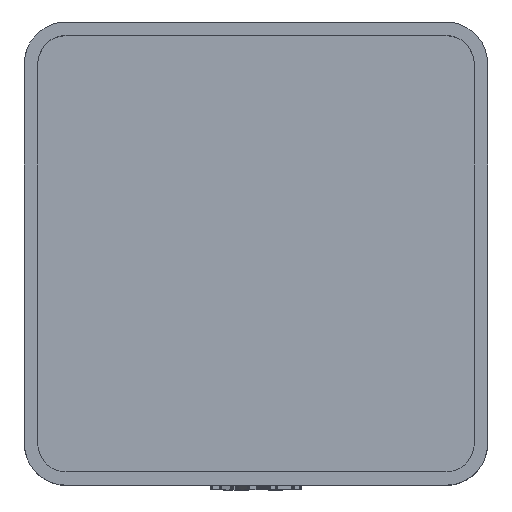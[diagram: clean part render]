
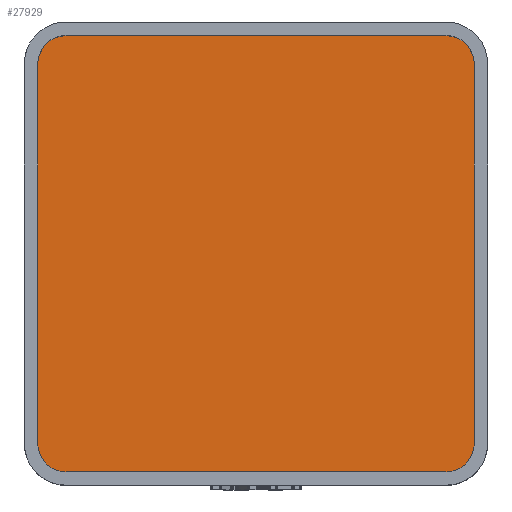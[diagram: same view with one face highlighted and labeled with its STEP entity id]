
A CAD part, top view. The second image highlights one B-rep face of the part: STEP entity #27929.
In plain terms, the highlighted planar face has unit normal (0, 0, 1).
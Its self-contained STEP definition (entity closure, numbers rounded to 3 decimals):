
#1442 = PLANE('',#1443);
#1443 = AXIS2_PLACEMENT_3D('',#1444,#1445,#1446);
#1444 = CARTESIAN_POINT('',(-19.55,-17.,4.75));
#1445 = DIRECTION('',(-1.,0.,0.));
#1446 = DIRECTION('',(0.,1.,0.));
#1474 = CYLINDRICAL_SURFACE('',#1475,2.55);
#1475 = AXIS2_PLACEMENT_3D('',#1476,#1477,#1478);
#1476 = CARTESIAN_POINT('',(-17.,17.,4.75));
#1477 = DIRECTION('',(-0.,-0.,-1.));
#1478 = DIRECTION('',(1.,0.,0.));
#1501 = PLANE('',#1502);
#1502 = AXIS2_PLACEMENT_3D('',#1503,#1504,#1505);
#1503 = CARTESIAN_POINT('',(-17.,19.55,4.75));
#1504 = DIRECTION('',(0.,1.,0.));
#1505 = DIRECTION('',(1.,0.,0.));
#1533 = CYLINDRICAL_SURFACE('',#1534,2.55);
#1534 = AXIS2_PLACEMENT_3D('',#1535,#1536,#1537);
#1535 = CARTESIAN_POINT('',(17.,17.,4.75));
#1536 = DIRECTION('',(-0.,-0.,-1.));
#1537 = DIRECTION('',(1.,0.,0.));
#1560 = PLANE('',#1561);
#1561 = AXIS2_PLACEMENT_3D('',#1562,#1563,#1564);
#1562 = CARTESIAN_POINT('',(19.55,-17.,4.75));
#1563 = DIRECTION('',(-1.,0.,0.));
#1564 = DIRECTION('',(0.,1.,0.));
#1592 = CYLINDRICAL_SURFACE('',#1593,2.55);
#1593 = AXIS2_PLACEMENT_3D('',#1594,#1595,#1596);
#1594 = CARTESIAN_POINT('',(17.,-17.,4.75));
#1595 = DIRECTION('',(-0.,-0.,-1.));
#1596 = DIRECTION('',(1.,0.,0.));
#1619 = PLANE('',#1620);
#1620 = AXIS2_PLACEMENT_3D('',#1621,#1622,#1623);
#1621 = CARTESIAN_POINT('',(-17.,-19.55,4.75));
#1622 = DIRECTION('',(0.,1.,0.));
#1623 = DIRECTION('',(1.,0.,0.));
#1649 = CYLINDRICAL_SURFACE('',#1650,2.55);
#1650 = AXIS2_PLACEMENT_3D('',#1651,#1652,#1653);
#1651 = CARTESIAN_POINT('',(-17.,-17.,4.75));
#1652 = DIRECTION('',(-0.,-0.,-1.));
#1653 = DIRECTION('',(1.,0.,0.));
#10705 = EDGE_CURVE('',#10706,#10708,#10710,.T.);
#10706 = VERTEX_POINT('',#10707);
#10707 = CARTESIAN_POINT('',(-19.55,-17.,4.75));
#10708 = VERTEX_POINT('',#10709);
#10709 = CARTESIAN_POINT('',(-19.55,17.,4.75));
#10710 = SURFACE_CURVE('',#10711,(#10715,#10722),.PCURVE_S1.);
#10711 = LINE('',#10712,#10713);
#10712 = CARTESIAN_POINT('',(-19.55,0.,4.75));
#10713 = VECTOR('',#10714,1.);
#10714 = DIRECTION('',(0.,1.,0.));
#10715 = PCURVE('',#1442,#10716);
#10716 = DEFINITIONAL_REPRESENTATION('',(#10717),#10721);
#10717 = LINE('',#10718,#10719);
#10718 = CARTESIAN_POINT('',(17.,0.));
#10719 = VECTOR('',#10720,1.);
#10720 = DIRECTION('',(1.,0.));
#10721 = ( GEOMETRIC_REPRESENTATION_CONTEXT(2) 
PARAMETRIC_REPRESENTATION_CONTEXT() REPRESENTATION_CONTEXT('2D SPACE',''
  ) );
#10722 = PCURVE('',#10723,#10728);
#10723 = PLANE('',#10724);
#10724 = AXIS2_PLACEMENT_3D('',#10725,#10726,#10727);
#10725 = CARTESIAN_POINT('',(0.,0.,4.75
    ));
#10726 = DIRECTION('',(0.,0.,1.));
#10727 = DIRECTION('',(1.,0.,-0.));
#10728 = DEFINITIONAL_REPRESENTATION('',(#10729),#10733);
#10729 = LINE('',#10730,#10731);
#10730 = CARTESIAN_POINT('',(-19.55,0.));
#10731 = VECTOR('',#10732,1.);
#10732 = DIRECTION('',(0.,1.));
#10733 = ( GEOMETRIC_REPRESENTATION_CONTEXT(2) 
PARAMETRIC_REPRESENTATION_CONTEXT() REPRESENTATION_CONTEXT('2D SPACE',''
  ) );
#10781 = EDGE_CURVE('',#10706,#10782,#10784,.T.);
#10782 = VERTEX_POINT('',#10783);
#10783 = CARTESIAN_POINT('',(-17.,-19.55,4.75));
#10784 = SURFACE_CURVE('',#10785,(#10790,#10797),.PCURVE_S1.);
#10785 = CIRCLE('',#10786,2.55);
#10786 = AXIS2_PLACEMENT_3D('',#10787,#10788,#10789);
#10787 = CARTESIAN_POINT('',(-17.,-17.,4.75));
#10788 = DIRECTION('',(0.,0.,1.));
#10789 = DIRECTION('',(1.,0.,0.));
#10790 = PCURVE('',#1649,#10791);
#10791 = DEFINITIONAL_REPRESENTATION('',(#10792),#10796);
#10792 = LINE('',#10793,#10794);
#10793 = CARTESIAN_POINT('',(-0.,0.));
#10794 = VECTOR('',#10795,1.);
#10795 = DIRECTION('',(-1.,0.));
#10796 = ( GEOMETRIC_REPRESENTATION_CONTEXT(2) 
PARAMETRIC_REPRESENTATION_CONTEXT() REPRESENTATION_CONTEXT('2D SPACE',''
  ) );
#10797 = PCURVE('',#10723,#10798);
#10798 = DEFINITIONAL_REPRESENTATION('',(#10799),#10803);
#10799 = CIRCLE('',#10800,2.55);
#10800 = AXIS2_PLACEMENT_2D('',#10801,#10802);
#10801 = CARTESIAN_POINT('',(-17.,-17.));
#10802 = DIRECTION('',(1.,0.));
#10803 = ( GEOMETRIC_REPRESENTATION_CONTEXT(2) 
PARAMETRIC_REPRESENTATION_CONTEXT() REPRESENTATION_CONTEXT('2D SPACE',''
  ) );
#10831 = EDGE_CURVE('',#10782,#10832,#10834,.T.);
#10832 = VERTEX_POINT('',#10833);
#10833 = CARTESIAN_POINT('',(17.,-19.55,4.75));
#10834 = SURFACE_CURVE('',#10835,(#10839,#10846),.PCURVE_S1.);
#10835 = LINE('',#10836,#10837);
#10836 = CARTESIAN_POINT('',(0.,-19.55,4.75));
#10837 = VECTOR('',#10838,1.);
#10838 = DIRECTION('',(1.,0.,0.));
#10839 = PCURVE('',#1619,#10840);
#10840 = DEFINITIONAL_REPRESENTATION('',(#10841),#10845);
#10841 = LINE('',#10842,#10843);
#10842 = CARTESIAN_POINT('',(17.,0.));
#10843 = VECTOR('',#10844,1.);
#10844 = DIRECTION('',(1.,0.));
#10845 = ( GEOMETRIC_REPRESENTATION_CONTEXT(2) 
PARAMETRIC_REPRESENTATION_CONTEXT() REPRESENTATION_CONTEXT('2D SPACE',''
  ) );
#10846 = PCURVE('',#10723,#10847);
#10847 = DEFINITIONAL_REPRESENTATION('',(#10848),#10852);
#10848 = LINE('',#10849,#10850);
#10849 = CARTESIAN_POINT('',(0.,-19.55));
#10850 = VECTOR('',#10851,1.);
#10851 = DIRECTION('',(1.,0.));
#10852 = ( GEOMETRIC_REPRESENTATION_CONTEXT(2) 
PARAMETRIC_REPRESENTATION_CONTEXT() REPRESENTATION_CONTEXT('2D SPACE',''
  ) );
#10880 = EDGE_CURVE('',#10832,#10881,#10883,.T.);
#10881 = VERTEX_POINT('',#10882);
#10882 = CARTESIAN_POINT('',(19.55,-17.,4.75));
#10883 = SURFACE_CURVE('',#10884,(#10889,#10896),.PCURVE_S1.);
#10884 = CIRCLE('',#10885,2.55);
#10885 = AXIS2_PLACEMENT_3D('',#10886,#10887,#10888);
#10886 = CARTESIAN_POINT('',(17.,-17.,4.75));
#10887 = DIRECTION('',(0.,0.,1.));
#10888 = DIRECTION('',(1.,0.,0.));
#10889 = PCURVE('',#1592,#10890);
#10890 = DEFINITIONAL_REPRESENTATION('',(#10891),#10895);
#10891 = LINE('',#10892,#10893);
#10892 = CARTESIAN_POINT('',(-0.,0.));
#10893 = VECTOR('',#10894,1.);
#10894 = DIRECTION('',(-1.,0.));
#10895 = ( GEOMETRIC_REPRESENTATION_CONTEXT(2) 
PARAMETRIC_REPRESENTATION_CONTEXT() REPRESENTATION_CONTEXT('2D SPACE',''
  ) );
#10896 = PCURVE('',#10723,#10897);
#10897 = DEFINITIONAL_REPRESENTATION('',(#10898),#10902);
#10898 = CIRCLE('',#10899,2.55);
#10899 = AXIS2_PLACEMENT_2D('',#10900,#10901);
#10900 = CARTESIAN_POINT('',(17.,-17.));
#10901 = DIRECTION('',(1.,0.));
#10902 = ( GEOMETRIC_REPRESENTATION_CONTEXT(2) 
PARAMETRIC_REPRESENTATION_CONTEXT() REPRESENTATION_CONTEXT('2D SPACE',''
  ) );
#10930 = EDGE_CURVE('',#10881,#10931,#10933,.T.);
#10931 = VERTEX_POINT('',#10932);
#10932 = CARTESIAN_POINT('',(19.55,17.,4.75));
#10933 = SURFACE_CURVE('',#10934,(#10938,#10945),.PCURVE_S1.);
#10934 = LINE('',#10935,#10936);
#10935 = CARTESIAN_POINT('',(19.55,0.,4.75));
#10936 = VECTOR('',#10937,1.);
#10937 = DIRECTION('',(0.,1.,0.));
#10938 = PCURVE('',#1560,#10939);
#10939 = DEFINITIONAL_REPRESENTATION('',(#10940),#10944);
#10940 = LINE('',#10941,#10942);
#10941 = CARTESIAN_POINT('',(17.,0.));
#10942 = VECTOR('',#10943,1.);
#10943 = DIRECTION('',(1.,0.));
#10944 = ( GEOMETRIC_REPRESENTATION_CONTEXT(2) 
PARAMETRIC_REPRESENTATION_CONTEXT() REPRESENTATION_CONTEXT('2D SPACE',''
  ) );
#10945 = PCURVE('',#10723,#10946);
#10946 = DEFINITIONAL_REPRESENTATION('',(#10947),#10951);
#10947 = LINE('',#10948,#10949);
#10948 = CARTESIAN_POINT('',(19.55,0.));
#10949 = VECTOR('',#10950,1.);
#10950 = DIRECTION('',(0.,1.));
#10951 = ( GEOMETRIC_REPRESENTATION_CONTEXT(2) 
PARAMETRIC_REPRESENTATION_CONTEXT() REPRESENTATION_CONTEXT('2D SPACE',''
  ) );
#10979 = EDGE_CURVE('',#10931,#10980,#10982,.T.);
#10980 = VERTEX_POINT('',#10981);
#10981 = CARTESIAN_POINT('',(17.,19.55,4.75));
#10982 = SURFACE_CURVE('',#10983,(#10988,#10995),.PCURVE_S1.);
#10983 = CIRCLE('',#10984,2.55);
#10984 = AXIS2_PLACEMENT_3D('',#10985,#10986,#10987);
#10985 = CARTESIAN_POINT('',(17.,17.,4.75));
#10986 = DIRECTION('',(0.,0.,1.));
#10987 = DIRECTION('',(1.,0.,0.));
#10988 = PCURVE('',#1533,#10989);
#10989 = DEFINITIONAL_REPRESENTATION('',(#10990),#10994);
#10990 = LINE('',#10991,#10992);
#10991 = CARTESIAN_POINT('',(-0.,0.));
#10992 = VECTOR('',#10993,1.);
#10993 = DIRECTION('',(-1.,0.));
#10994 = ( GEOMETRIC_REPRESENTATION_CONTEXT(2) 
PARAMETRIC_REPRESENTATION_CONTEXT() REPRESENTATION_CONTEXT('2D SPACE',''
  ) );
#10995 = PCURVE('',#10723,#10996);
#10996 = DEFINITIONAL_REPRESENTATION('',(#10997),#11001);
#10997 = CIRCLE('',#10998,2.55);
#10998 = AXIS2_PLACEMENT_2D('',#10999,#11000);
#10999 = CARTESIAN_POINT('',(17.,17.));
#11000 = DIRECTION('',(1.,0.));
#11001 = ( GEOMETRIC_REPRESENTATION_CONTEXT(2) 
PARAMETRIC_REPRESENTATION_CONTEXT() REPRESENTATION_CONTEXT('2D SPACE',''
  ) );
#11029 = EDGE_CURVE('',#11030,#10980,#11032,.T.);
#11030 = VERTEX_POINT('',#11031);
#11031 = CARTESIAN_POINT('',(-17.,19.55,4.75));
#11032 = SURFACE_CURVE('',#11033,(#11037,#11044),.PCURVE_S1.);
#11033 = LINE('',#11034,#11035);
#11034 = CARTESIAN_POINT('',(0.,19.55,4.75));
#11035 = VECTOR('',#11036,1.);
#11036 = DIRECTION('',(1.,0.,0.));
#11037 = PCURVE('',#1501,#11038);
#11038 = DEFINITIONAL_REPRESENTATION('',(#11039),#11043);
#11039 = LINE('',#11040,#11041);
#11040 = CARTESIAN_POINT('',(17.,0.));
#11041 = VECTOR('',#11042,1.);
#11042 = DIRECTION('',(1.,0.));
#11043 = ( GEOMETRIC_REPRESENTATION_CONTEXT(2) 
PARAMETRIC_REPRESENTATION_CONTEXT() REPRESENTATION_CONTEXT('2D SPACE',''
  ) );
#11044 = PCURVE('',#10723,#11045);
#11045 = DEFINITIONAL_REPRESENTATION('',(#11046),#11050);
#11046 = LINE('',#11047,#11048);
#11047 = CARTESIAN_POINT('',(0.,19.55));
#11048 = VECTOR('',#11049,1.);
#11049 = DIRECTION('',(1.,0.));
#11050 = ( GEOMETRIC_REPRESENTATION_CONTEXT(2) 
PARAMETRIC_REPRESENTATION_CONTEXT() REPRESENTATION_CONTEXT('2D SPACE',''
  ) );
#11078 = EDGE_CURVE('',#11030,#10708,#11079,.T.);
#11079 = SURFACE_CURVE('',#11080,(#11085,#11092),.PCURVE_S1.);
#11080 = CIRCLE('',#11081,2.55);
#11081 = AXIS2_PLACEMENT_3D('',#11082,#11083,#11084);
#11082 = CARTESIAN_POINT('',(-17.,17.,4.75));
#11083 = DIRECTION('',(0.,0.,1.));
#11084 = DIRECTION('',(1.,0.,0.));
#11085 = PCURVE('',#1474,#11086);
#11086 = DEFINITIONAL_REPRESENTATION('',(#11087),#11091);
#11087 = LINE('',#11088,#11089);
#11088 = CARTESIAN_POINT('',(-0.,0.));
#11089 = VECTOR('',#11090,1.);
#11090 = DIRECTION('',(-1.,0.));
#11091 = ( GEOMETRIC_REPRESENTATION_CONTEXT(2) 
PARAMETRIC_REPRESENTATION_CONTEXT() REPRESENTATION_CONTEXT('2D SPACE',''
  ) );
#11092 = PCURVE('',#10723,#11093);
#11093 = DEFINITIONAL_REPRESENTATION('',(#11094),#11098);
#11094 = CIRCLE('',#11095,2.55);
#11095 = AXIS2_PLACEMENT_2D('',#11096,#11097);
#11096 = CARTESIAN_POINT('',(-17.,17.));
#11097 = DIRECTION('',(1.,0.));
#11098 = ( GEOMETRIC_REPRESENTATION_CONTEXT(2) 
PARAMETRIC_REPRESENTATION_CONTEXT() REPRESENTATION_CONTEXT('2D SPACE',''
  ) );
#27929 = ADVANCED_FACE('',(#27930),#10723,.T.);
#27930 = FACE_BOUND('',#27931,.T.);
#27931 = EDGE_LOOP('',(#27932,#27933,#27934,#27935,#27936,#27937,#27938,
    #27939));
#27932 = ORIENTED_EDGE('',*,*,#10705,.F.);
#27933 = ORIENTED_EDGE('',*,*,#10781,.T.);
#27934 = ORIENTED_EDGE('',*,*,#10831,.T.);
#27935 = ORIENTED_EDGE('',*,*,#10880,.T.);
#27936 = ORIENTED_EDGE('',*,*,#10930,.T.);
#27937 = ORIENTED_EDGE('',*,*,#10979,.T.);
#27938 = ORIENTED_EDGE('',*,*,#11029,.F.);
#27939 = ORIENTED_EDGE('',*,*,#11078,.T.);
